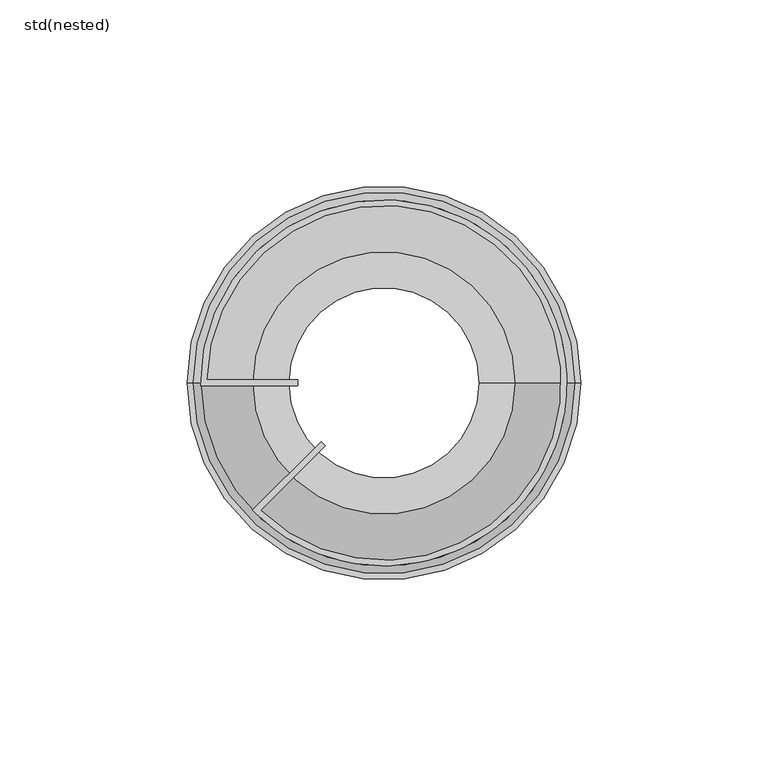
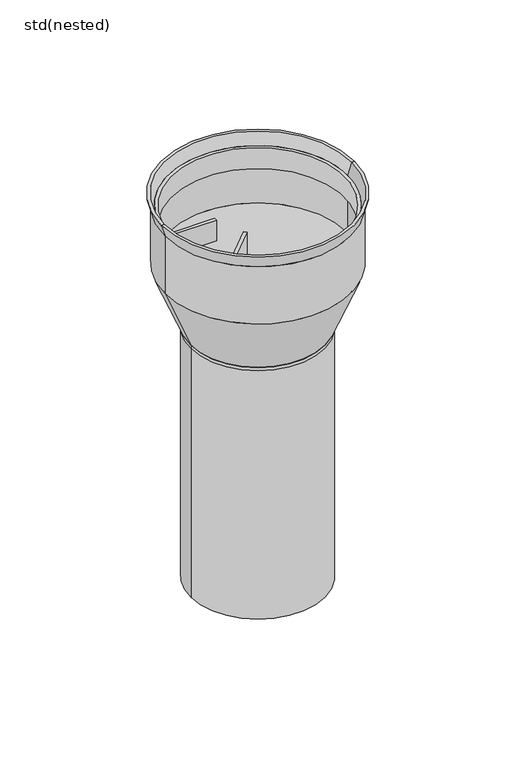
"""IFC4 building model written with IfcOpenShell, lengths in millimetres: sanitary terminal geometry, ZZZ_do not use_PF_ST_UN_balcony gully_ACO : std(nested)."""

import ifcopenshell
import ifcopenshell.guid

model = None  # the IFC model being written
_history = None  # IfcOwnerHistory: only IFC2X3 demands one
_inside = {}  # id of a spatial element -> (the spatial element, [elements in it])
_under = {}  # id of a project, library or spatial element -> (it, [spatial elements below it])
_declared = {}  # id of a project -> (the project, [libraries it declares])
_typed = {}  # id of a type object -> (the type object, [elements of that type])
_made_of = {}  # id of a material, layer set ... -> (it, [elements and type objects made of it])


def new_model(schema):
    """Start an empty IFC model of exactly this schema.

    Asked for "IFC4X3", IfcOpenShell would pick the latest addendum, in which some entities
    have other attributes; the version numbers below select the first issue.
    IFC2X3 requires an IfcOwnerHistory on every rooted entity: one is made here for all.
    """
    global model, _history
    if schema == "IFC4X3":
        model = ifcopenshell.file(schema_version=(4, 3, 0, 0))
    else:
        model = ifcopenshell.file(schema=schema)
    _inside.clear()
    _under.clear()
    _declared.clear()
    _typed.clear()
    _made_of.clear()
    _history = None
    if model.schema == "IFC2X3":
        org = make("IfcOrganization", Name="unknown")
        user = make(
            "IfcPersonAndOrganization",
            ThePerson=make("IfcPerson", FamilyName="unknown"),
            TheOrganization=org,
        )
        app = make(
            "IfcApplication",
            ApplicationDeveloper=org,
            Version="unknown",
            ApplicationFullName="unknown",
            ApplicationIdentifier="unknown",
        )
        _history = make(
            "IfcOwnerHistory",
            OwningUser=user,
            OwningApplication=app,
            ChangeAction="ADDED",
            CreationDate=0,
        )
    return model


def make(cls, **values):
    """One entity of the class cls with the attributes given. An attribute that is None is left unset."""
    return model.create_entity(
        cls, **{name: value for name, value in values.items() if value is not None}
    )


def rooted(cls, **values):
    """An entity with a GlobalId (a new one), such as an element, a storey or a relation."""
    return make(cls, GlobalId=ifcopenshell.guid.new(), OwnerHistory=_history, **values)


def si_unit(unit_type, name, prefix=None):
    """IfcSIUnit, for example si_unit("LENGTHUNIT", "METRE", prefix="MILLI")."""
    return make("IfcSIUnit", UnitType=unit_type, Prefix=prefix, Name=name)


def assignment(units):
    """IfcUnitAssignment: the units of a project."""
    return None if units is None else make("IfcUnitAssignment", Units=units)


def point(xyz):
    """IfcCartesianPoint."""
    return None if xyz is None else make("IfcCartesianPoint", Coordinates=xyz)


def direction(xyz):
    """IfcDirection."""
    return None if xyz is None else make("IfcDirection", DirectionRatios=xyz)


def frame(location, z_axis=None, x_axis=None):
    """IfcAxis2Placement3D, a coordinate frame: its origin and axes. An axis left out is left unset."""
    return make(
        "IfcAxis2Placement3D",
        Location=point(location),
        Axis=direction(z_axis),
        RefDirection=direction(x_axis),
    )


def frame_2d(location, x_axis=None):
    """IfcAxis2Placement2D, a coordinate frame in the plane: its origin and x axis."""
    return make(
        "IfcAxis2Placement2D", Location=point(location), RefDirection=direction(x_axis)
    )


def origin():
    """The frame at (0, 0, 0) with its axes left unset."""
    return frame((0.0, 0.0, 0.0))


def origin_2d():
    """The frame at (0, 0) in the plane with its x axis left unset."""
    return frame_2d((0.0, 0.0))


def place(relative_to, where):
    """IfcLocalPlacement: puts the frame where relative to a parent placement (None: the world)."""
    return make(
        "IfcLocalPlacement", PlacementRelTo=relative_to, RelativePlacement=where
    )


def context(
    kind, dimensions, precision=None, world=None, true_north=None, identifier=None
):
    """IfcGeometricRepresentationContext, for example the 3D "Model" context."""
    return make(
        "IfcGeometricRepresentationContext",
        ContextIdentifier=identifier,
        ContextType=kind,
        CoordinateSpaceDimension=dimensions,
        Precision=precision,
        WorldCoordinateSystem=world,
        TrueNorth=true_north,
    )


def project(units=None, contexts=None):
    """IfcProject with its units and contexts."""
    return rooted(
        "IfcProject",
        Name="project",
        RepresentationContexts=contexts,
        UnitsInContext=assignment(units),
    )


def spatial(cls, under=None, at=None, **own):
    """A site, building, storey or space (cls), placed at a placement, below another one or the project."""
    s = rooted(cls, ObjectPlacement=at, **own)
    if under is not None:
        _under.setdefault(under.id(), (under, []))[1].append(s)
    return s


def polyline(points):
    """IfcPolyline through the points."""
    return make("IfcPolyline", Points=[point(p) for p in points])


def circle_curve(where, radius):
    """IfcCircle in the frame where."""
    return make("IfcCircle", Position=where, Radius=radius)


def trimmed(basis, trim1, trim2, sense, master):
    """IfcTrimmedCurve: the piece of a basis curve between two trims."""
    return make(
        "IfcTrimmedCurve",
        BasisCurve=basis,
        Trim1=trim1,
        Trim2=trim2,
        SenseAgreement=sense,
        MasterRepresentation=master,
    )


def segment(curve, same_sense, transition):
    """IfcCompositeCurveSegment."""
    return make(
        "IfcCompositeCurveSegment",
        Transition=transition,
        SameSense=same_sense,
        ParentCurve=curve,
    )


def composite_curve(segments, self_intersect=None):
    """IfcCompositeCurve: segments joined end to end."""
    return make("IfcCompositeCurve", Segments=segments, SelfIntersect=self_intersect)


def outline(outer, holes=None, kind="AREA"):
    """IfcArbitraryClosedProfileDef: a profile drawn as a closed curve; with holes, ...WithVoids."""
    if holes is None:
        return make("IfcArbitraryClosedProfileDef", ProfileType=kind, OuterCurve=outer)
    return make(
        "IfcArbitraryProfileDefWithVoids",
        ProfileType=kind,
        OuterCurve=outer,
        InnerCurves=holes,
    )


def extrude(swept, where, along, depth):
    """IfcExtrudedAreaSolid: the profile swept, set in the frame where, extruded along a direction by depth."""
    return make(
        "IfcExtrudedAreaSolid",
        SweptArea=swept,
        Position=where,
        ExtrudedDirection=direction(along),
        Depth=depth,
    )


def shape(context_of_items, identifier, shape_type, items):
    """IfcShapeRepresentation: the items that make up one representation, for example the "Body"."""
    return make(
        "IfcShapeRepresentation",
        ContextOfItems=context_of_items,
        RepresentationIdentifier=identifier,
        RepresentationType=shape_type,
        Items=items,
    )


def source(mapping_origin, context_of_items, identifier, shape_type, items):
    """IfcRepresentationMap: a shape defined once, which mapped items show again and again."""
    return make(
        "IfcRepresentationMap",
        MappingOrigin=mapping_origin,
        MappedRepresentation=shape(context_of_items, identifier, shape_type, items),
    )


def transform(
    local_origin,
    x_axis=None,
    y_axis=None,
    z_axis=None,
    scale=None,
    scale2=None,
    scale3=None,
    uniform=True,
):
    """IfcCartesianTransformationOperator3D, or its non-uniform kind. x_axis, y_axis, z_axis: its Axis1, 2, 3."""
    if uniform:
        return make(
            "IfcCartesianTransformationOperator3D",
            Axis1=direction(x_axis),
            Axis2=direction(y_axis),
            LocalOrigin=point(local_origin),
            Scale=scale,
            Axis3=direction(z_axis),
        )
    return make(
        "IfcCartesianTransformationOperator3DnonUniform",
        Axis1=direction(x_axis),
        Axis2=direction(y_axis),
        LocalOrigin=point(local_origin),
        Scale=scale,
        Axis3=direction(z_axis),
        Scale2=scale2,
        Scale3=scale3,
    )


def mapped(mapping_source, mapping_target):
    """IfcMappedItem: shows the shape of a source again, moved by a transform."""
    return make(
        "IfcMappedItem", MappingSource=mapping_source, MappingTarget=mapping_target
    )


def made_of(thing, what):
    """Note that an element or type object is made of a material, layer set ...; save() writes the relation."""
    if what is not None:
        _made_of.setdefault(what.id(), (what, []))[1].append(thing)
    return thing


def element(
    cls,
    number,
    at=None,
    inside=None,
    cuts=None,
    type_object=None,
    material=None,
    context=None,
    identifier="Body",
    shape_type=None,
    held_by="IfcProductDefinitionShape",
    body=None,
    shapes=None,
    **own,
):
    """One element of the class cls, such as IfcWall. Its Tag is "e" and its number.

    at: its placement. inside: the storey or other place that contains it. cuts: it is an
    opening in that element (IfcRelVoidsElement). A single representation is given by context,
    identifier, shape_type and body (its items); several are given by shapes. held_by: the class
    of the entity that holds the representations. save() writes the other relations.
    """
    e = rooted(cls, Tag="e%d" % number, ObjectPlacement=at, **own)
    if body is not None:
        shapes = [shape(context, identifier, shape_type, body)]
    if shapes is not None:
        e.Representation = make(held_by, Representations=shapes)
    if inside is not None:
        _inside.setdefault(inside.id(), (inside, []))[1].append(e)
    if cuts is not None:
        rooted(
            "IfcRelVoidsElement", RelatingBuildingElement=cuts, RelatedOpeningElement=e
        )
    if type_object is not None:
        _typed.setdefault(type_object.id(), (type_object, []))[1].append(e)
    return made_of(e, material)


def aggregate(whole, parts):
    """IfcRelAggregates: a whole, such as a stair, and the parts it consists of."""
    return rooted("IfcRelAggregates", RelatingObject=whole, RelatedObjects=parts)


def save(model, path):
    """Write the relations noted so far, then the file.

    IfcRelAggregates (storeys below a building ...), IfcRelContainedInSpatialStructure (elements
    in a storey), IfcRelDefinesByType, IfcRelAssociatesMaterial and IfcRelDeclares: one each for
    every whole, place, type object, material and project.
    """
    for whole, parts in _under.values():
        aggregate(whole, parts)
    for where, things in _inside.values():
        rooted(
            "IfcRelContainedInSpatialStructure",
            RelatedElements=things,
            RelatingStructure=where,
        )
    for kind, things in _typed.values():
        rooted("IfcRelDefinesByType", RelatedObjects=things, RelatingType=kind)
    for what, things in _made_of.values():
        rooted("IfcRelAssociatesMaterial", RelatedObjects=things, RelatingMaterial=what)
    for by, libraries in _declared.values():
        rooted("IfcRelDeclares", RelatingContext=by, RelatedDefinitions=libraries)
    model.write(path)


def plane_surface(at):
    """IfcPlane: the flat surface through the origin of the frame at, square to its z axis."""
    return make("IfcPlane", Position=at)


def cylinder_surface(at, radius):
    """IfcCylindricalSurface: all points at the distance radius from the z axis of the frame at."""
    return make("IfcCylindricalSurface", Position=at, Radius=radius)


def revolved_surface(curve, axis_point, axis_direction):
    """IfcSurfaceOfRevolution: the curve turned about the line through axis_point along axis_direction."""
    return make(
        "IfcSurfaceOfRevolution",
        SweptCurve=make("IfcArbitraryOpenProfileDef", ProfileType="CURVE", Curve=curve),
        AxisPosition=make("IfcAxis1Placement", Location=point(axis_point), Axis=direction(axis_direction)),
    )


def advanced_brep(points, edges, surfaces, faces):
    """IfcAdvancedBrep: a solid bounded by faces that lie on surfaces and meet in shared edges.

    An edge is (start, end): straight between two places in points (the first is 0);
    or (start, end, curve); or (start, end, curve, False) where it runs against its curve.
    A face is (place in surfaces, loops), or (place, loops, False) where it looks against
    its surface's normal. A loop lists edges by number (the first is 1), with a minus sign
    where the edge is run from its end to its start. The first loop is the outer one.
    """
    corners = [point(p) for p in points]
    vertices = [make("IfcVertexPoint", VertexGeometry=c) for c in corners]
    made = []
    for start, end, *more in edges:
        made.append(
            make(
                "IfcEdgeCurve",
                EdgeStart=vertices[start],
                EdgeEnd=vertices[end],
                EdgeGeometry=more[0] if more else make("IfcPolyline", Points=[corners[start], corners[end]]),
                SameSense=more[1] if len(more) > 1 else True,
            )
        )
    hull = []
    for where, loops, *sense in faces:
        bounds = []
        for j, loop in enumerate(loops):
            ring = [make("IfcOrientedEdge", EdgeElement=made[abs(k) - 1], Orientation=k > 0) for k in loop]
            bounds.append(
                make(
                    "IfcFaceOuterBound" if j == 0 else "IfcFaceBound",
                    Bound=make("IfcEdgeLoop", EdgeList=ring),
                    Orientation=True,
                )
            )
        hull.append(make("IfcAdvancedFace", Bounds=bounds, FaceSurface=surfaces[where], SameSense=sense[0] if sense else True))
    return make("IfcAdvancedBrep", Outer=make("IfcClosedShell", CfsFaces=hull))


def std_nested_d689c9a8(model_context):
    return source(origin(), model_context, "Body", "SolidModel", [
        extrude(outline(composite_curve([segment(trimmed(circle_curve(origin_2d(), 49.0), [point((-48.993469, -0.8))], [point((-35.2092996, -34.0779287))], False, "CARTESIAN"), True, "CONTINUOUS"), segment(polyline([(-35.2092996, -34.0779287), (-16.8291414, -15.6977705), (-15.6977705, -16.8291414), (-32.9464019, -34.0777728)]), True, "CONTINUOUS"), segment(trimmed(circle_curve(origin_2d(), 47.4), [point((-32.9464019, -34.0777728))], [point((-47.3932485, 0.8))], True, "CARTESIAN"), True, "CONTINUOUS"), segment(polyline([(-47.3932485, 0.8), (-23.0, 0.8), (-23.0, -0.8), (-48.993469, -0.8)]), True, "CONTINUOUS")], self_intersect=False)), frame((0.0, 0.0, -19.0), z_axis=(0.0, 0.0, 1.0), x_axis=(1.0, 0.0, 0.0)), (0.0, 0.0, 1.0), 12.0),
        advanced_brep(
        [(27.0, 0.0, -76.7358828), (-27.0, 0.0, -76.7358828), (-36.5, 0.0, -76.7358828), (36.5, 0.0, -76.7358828), (27.0, 0.0, -218.0), (-27.0, 0.0, -218.0), (25.444252, 0.0, -218.0), (-25.444252, 0.0, -218.0), (25.444252, 0.0, -75.0), (-25.444252, 0.0, -75.0), (36.5, 0.0, -75.0), (-36.5, 0.0, -75.0)],
        [
            (0, 1, circle_curve(frame((0.0, 0.0, -76.7358828), z_axis=(0.0, 0.0, 1.0), x_axis=(-1.0, 0.0, 0.0)), 27.0)),
            (1, 2),
            (2, 3, circle_curve(frame((0.0, 0.0, -76.7358828), z_axis=(0.0, 0.0, -1.0), x_axis=(-1.0, 0.0, 0.0)), 36.5)),
            (3, 0),
            (1, 0, circle_curve(frame((0.0, 0.0, -76.7358828), z_axis=(0.0, 0.0, 1.0), x_axis=(-1.0, 0.0, 0.0)), 27.0)),
            (3, 2, circle_curve(frame((0.0, 0.0, -76.7358828), z_axis=(0.0, 0.0, -1.0), x_axis=(-1.0, 0.0, 0.0)), 36.5)),
            (4, 5, circle_curve(frame((0.0, 0.0, -218.0), z_axis=(0.0, 0.0, 1.0), x_axis=(-1.0, 0.0, 0.0)), 27.0)),
            (5, 1),
            (0, 4),
            (5, 4, circle_curve(frame((0.0, 0.0, -218.0), z_axis=(0.0, 0.0, 1.0), x_axis=(-1.0, 0.0, 0.0)), 27.0)),
            (6, 7, circle_curve(frame((0.0, 0.0, -218.0), z_axis=(0.0, 0.0, 1.0), x_axis=(-1.0, 0.0, 0.0)), 25.444252)),
            (7, 5),
            (4, 6),
            (7, 6, circle_curve(frame((0.0, 0.0, -218.0), z_axis=(0.0, 0.0, 1.0), x_axis=(-1.0, 0.0, 0.0)), 25.444252)),
            (8, 9, circle_curve(frame((0.0, 0.0, -75.0), z_axis=(0.0, 0.0, 1.0), x_axis=(-1.0, 0.0, 0.0)), 25.444252)),
            (9, 7),
            (6, 8),
            (9, 8, circle_curve(frame((0.0, 0.0, -75.0), z_axis=(0.0, 0.0, 1.0), x_axis=(-1.0, 0.0, 0.0)), 25.444252)),
            (10, 11, circle_curve(frame((0.0, 0.0, -75.0), z_axis=(0.0, 0.0, 1.0), x_axis=(-1.0, 0.0, 0.0)), 36.5)),
            (11, 9),
            (8, 10),
            (11, 10, circle_curve(frame((0.0, 0.0, -75.0), z_axis=(0.0, 0.0, 1.0), x_axis=(-1.0, 0.0, 0.0)), 36.5)),
            (2, 11),
            (10, 3),
        ],
        [
            plane_surface(frame((0.0, 0.0, -76.7358828), z_axis=(0.0, 0.0, -1.0), x_axis=(-1.0, 0.0, 0.0))),
            cylinder_surface(frame((0.0, 0.0, 0.0), z_axis=(0.0, 0.0, -1.0), x_axis=(-1.0, 0.0, 0.0)), 27.0),
            plane_surface(frame((0.0, 0.0, -218.0), z_axis=(0.0, 0.0, -1.0), x_axis=(-1.0, 0.0, 0.0))),
            revolved_surface(polyline([(-25.444252, 0.0, -218.0), (-25.444252, 0.0, -75.0)]), (0.0, 0.0, 0.0), (0.0, 0.0, -1.0)),
            plane_surface(frame((0.0, 0.0, -75.0), z_axis=(0.0, 0.0, 1.0), x_axis=(-1.0, 0.0, 0.0))),
            cylinder_surface(frame((0.0, 0.0, 0.0), z_axis=(0.0, 0.0, -1.0), x_axis=(-1.0, 0.0, 0.0)), 36.5),
        ],
        [
            (0, [[1, 2, 3, 4]]),
            (0, [[5, -4, 6, -2]]),
            (1, [[7, 8, -1, 9]]),
            (1, [[10, -9, -5, -8]]),
            (2, [[11, 12, -7, 13]]),
            (2, [[14, -13, -10, -12]]),
            (3, [[15, 16, -11, 17]]),
            (3, [[18, -17, -14, -16]]),
            (4, [[19, 20, -15, 21]]),
            (4, [[22, -21, -18, -20]]),
            (5, [[-3, 23, -19, 24]]),
            (5, [[-6, -24, -22, -23]]),
        ],
    ),
        advanced_brep(
        [(50.6480246, 0.0, -7.0), (-50.6480246, 0.0, -7.0), (-52.6480246, 0.0, 0.0), (52.6480246, 0.0, 0.0), (50.6480246, 0.0, -40.0), (-50.6480246, 0.0, -40.0), (36.5, 0.0, -75.0), (-36.5, 0.0, -75.0), (36.5, 0.0, -220.0), (-36.5, 0.0, -220.0), (34.8519754, 0.0, -220.0), (-34.8519754, 0.0, -220.0), (34.8519754, 0.0, -75.0), (-34.8519754, 0.0, -75.0), (49.0, 0.0, -40.0), (-49.0, 0.0, -40.0), (49.0, 0.0, -7.0), (-49.0, 0.0, -7.0), (51.0, 0.0, 0.0), (-51.0, 0.0, 0.0)],
        [
            (0, 1, circle_curve(frame((0.0, 0.0, -7.0), z_axis=(0.0, 0.0, 1.0), x_axis=(-1.0, 0.0, 0.0)), 50.6480246)),
            (1, 2),
            (2, 3, circle_curve(frame((0.0, 0.0, 0.0), z_axis=(0.0, 0.0, -1.0), x_axis=(-1.0, 0.0, 0.0)), 52.6480246)),
            (3, 0),
            (1, 0, circle_curve(frame((0.0, 0.0, -7.0), z_axis=(0.0, 0.0, 1.0), x_axis=(-1.0, 0.0, 0.0)), 50.6480246)),
            (3, 2, circle_curve(frame((0.0, 0.0, 0.0), z_axis=(0.0, 0.0, -1.0), x_axis=(-1.0, 0.0, 0.0)), 52.6480246)),
            (4, 5, circle_curve(frame((0.0, 0.0, -40.0), z_axis=(0.0, 0.0, 1.0), x_axis=(-1.0, 0.0, 0.0)), 50.6480246)),
            (5, 1),
            (0, 4),
            (5, 4, circle_curve(frame((0.0, 0.0, -40.0), z_axis=(0.0, 0.0, 1.0), x_axis=(-1.0, 0.0, 0.0)), 50.6480246)),
            (6, 7, circle_curve(frame((0.0, 0.0, -75.0), z_axis=(0.0, 0.0, 1.0), x_axis=(-1.0, 0.0, 0.0)), 36.5)),
            (7, 5),
            (4, 6),
            (7, 6, circle_curve(frame((0.0, 0.0, -75.0), z_axis=(0.0, 0.0, 1.0), x_axis=(-1.0, 0.0, 0.0)), 36.5)),
            (8, 9, circle_curve(frame((0.0, 0.0, -220.0), z_axis=(0.0, 0.0, 1.0), x_axis=(-1.0, 0.0, 0.0)), 36.5)),
            (9, 7),
            (6, 8),
            (9, 8, circle_curve(frame((0.0, 0.0, -220.0), z_axis=(0.0, 0.0, 1.0), x_axis=(-1.0, 0.0, 0.0)), 36.5)),
            (10, 11, circle_curve(frame((0.0, 0.0, -220.0), z_axis=(0.0, 0.0, 1.0), x_axis=(-1.0, 0.0, 0.0)), 34.8519754)),
            (11, 9),
            (8, 10),
            (11, 10, circle_curve(frame((0.0, 0.0, -220.0), z_axis=(0.0, 0.0, 1.0), x_axis=(-1.0, 0.0, 0.0)), 34.8519754)),
            (12, 13, circle_curve(frame((0.0, 0.0, -75.0), z_axis=(0.0, 0.0, 1.0), x_axis=(-1.0, 0.0, 0.0)), 34.8519754)),
            (13, 11),
            (10, 12),
            (13, 12, circle_curve(frame((0.0, 0.0, -75.0), z_axis=(0.0, 0.0, 1.0), x_axis=(-1.0, 0.0, 0.0)), 34.8519754)),
            (14, 15, circle_curve(frame((0.0, 0.0, -40.0), z_axis=(0.0, 0.0, 1.0), x_axis=(-1.0, 0.0, 0.0)), 49.0)),
            (15, 13),
            (12, 14),
            (15, 14, circle_curve(frame((0.0, 0.0, -40.0), z_axis=(0.0, 0.0, 1.0), x_axis=(-1.0, 0.0, 0.0)), 49.0)),
            (16, 17, circle_curve(frame((0.0, 0.0, -7.0), z_axis=(0.0, 0.0, 1.0), x_axis=(-1.0, 0.0, 0.0)), 49.0)),
            (17, 15),
            (14, 16),
            (17, 16, circle_curve(frame((0.0, 0.0, -7.0), z_axis=(0.0, 0.0, 1.0), x_axis=(-1.0, 0.0, 0.0)), 49.0)),
            (18, 19, circle_curve(frame((0.0, 0.0, 0.0), z_axis=(0.0, 0.0, 1.0), x_axis=(-1.0, 0.0, 0.0)), 51.0)),
            (19, 17),
            (16, 18),
            (19, 18, circle_curve(frame((0.0, 0.0, 0.0), z_axis=(0.0, 0.0, 1.0), x_axis=(-1.0, 0.0, 0.0)), 51.0)),
            (2, 19),
            (18, 3),
        ],
        [
            revolved_surface(polyline([(-52.6480246, 0.0, 0.0), (-50.6480246, 0.0, -7.0)]), (0.0, 0.0, 0.0), (0.0, 0.0, -1.0)),
            cylinder_surface(frame((0.0, 0.0, 0.0), z_axis=(0.0, 0.0, -1.0), x_axis=(-1.0, 0.0, 0.0)), 50.6480246),
            revolved_surface(polyline([(-50.6480246, 0.0, -40.0), (-36.5, 0.0, -75.0)]), (0.0, 0.0, 0.0), (0.0, 0.0, -1.0)),
            cylinder_surface(frame((0.0, 0.0, 0.0), z_axis=(0.0, 0.0, -1.0), x_axis=(-1.0, 0.0, 0.0)), 36.5),
            plane_surface(frame((0.0, 0.0, -220.0), z_axis=(0.0, 0.0, -1.0), x_axis=(-1.0, 0.0, 0.0))),
            revolved_surface(polyline([(-34.8519754, 0.0, -220.0), (-34.8519754, 0.0, -75.0)]), (0.0, 0.0, 0.0), (0.0, 0.0, -1.0)),
            revolved_surface(polyline([(-34.8519754, 0.0, -75.0), (-49.0, 0.0, -40.0)]), (0.0, 0.0, 0.0), (0.0, 0.0, -1.0)),
            revolved_surface(polyline([(-49.0, 0.0, -40.0), (-49.0, 0.0, -7.0)]), (0.0, 0.0, 0.0), (0.0, 0.0, -1.0)),
            revolved_surface(polyline([(-49.0, 0.0, -7.0), (-51.0, 0.0, 0.0)]), (0.0, 0.0, 0.0), (0.0, 0.0, -1.0)),
            plane_surface(frame((0.0, 0.0, 0.0), z_axis=(0.0, 0.0, 1.0), x_axis=(-1.0, 0.0, 0.0))),
        ],
        [
            (0, [[1, 2, 3, 4]]),
            (0, [[5, -4, 6, -2]]),
            (1, [[7, 8, -1, 9]]),
            (1, [[10, -9, -5, -8]]),
            (2, [[11, 12, -7, 13]]),
            (2, [[14, -13, -10, -12]]),
            (3, [[15, 16, -11, 17]]),
            (3, [[18, -17, -14, -16]]),
            (4, [[19, 20, -15, 21]]),
            (4, [[22, -21, -18, -20]]),
            (5, [[23, 24, -19, 25]]),
            (5, [[26, -25, -22, -24]]),
            (6, [[27, 28, -23, 29]]),
            (6, [[30, -29, -26, -28]]),
            (7, [[31, 32, -27, 33]]),
            (7, [[34, -33, -30, -32]]),
            (8, [[35, 36, -31, 37]]),
            (8, [[38, -37, -34, -36]]),
            (9, [[-3, 39, -35, 40]]),
            (9, [[-6, -40, -38, -39]]),
        ],
    ),
    ])


if __name__ == "__main__":
    model = new_model("IFC4")
    model_context = context("Model", 3, world=origin())
    ifc_project = project(units=[si_unit("LENGTHUNIT", "METRE", prefix="MILLI")], contexts=[model_context])
    site = spatial("IfcSite", under=ifc_project)
    building = spatial("IfcBuilding", under=site)
    placement = place(None, origin())
    std_nested_shape = std_nested_d689c9a8(model_context)
    element("IfcSanitaryTerminal", 1, ObjectType="ZZZ_do not use_PF_ST_UN_balcony gully_ACO : std(nested)", at=placement, inside=building, context=model_context, shape_type="MappedRepresentation", body=[
        mapped(std_nested_shape, transform((0.0, 0.0, 0.0), x_axis=(1.0, 0.0, 0.0), y_axis=(0.0, 1.0, 0.0), z_axis=(0.0, 0.0, 1.0))),
    ])
    save(model, "model.ifc")
